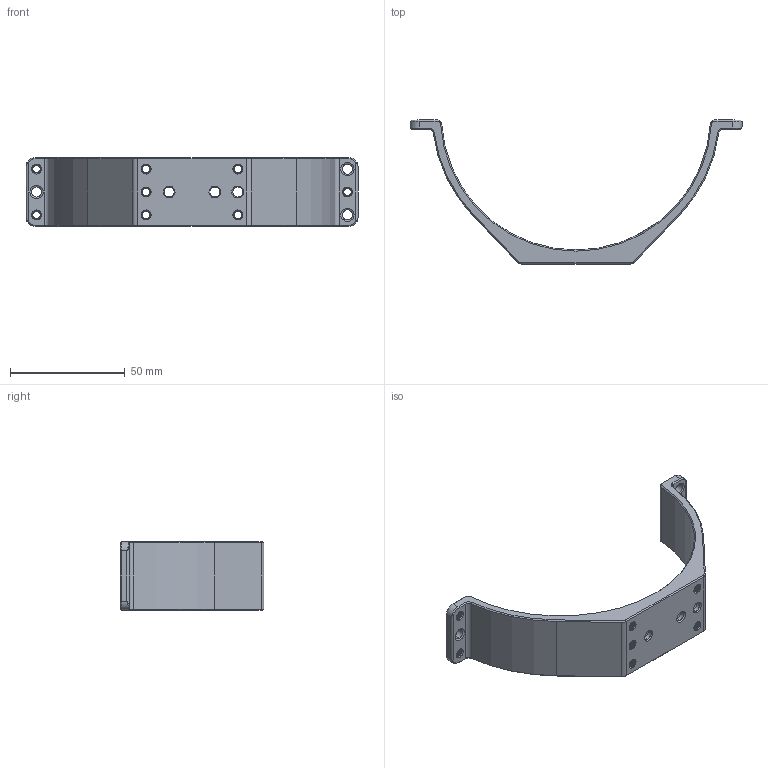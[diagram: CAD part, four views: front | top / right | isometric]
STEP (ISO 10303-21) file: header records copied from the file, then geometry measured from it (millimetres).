
FILE_DESCRIPTION (( 'STEP AP214' ), '1' );
FILE_NAME ('WTE4-M-CLAMP.STEP', '2024-03-15T21:25:49', ( '' ), ( '' ), 'SwSTEP 2.0', 'SolidWorks 2024', '' );
FILE_SCHEMA (( 'AUTOMOTIVE_DESIGN' ));
Length unit declared in the file: millimetre
Products named in the file (1): WTE4-M-CLAMP
Bounding box: 144.9 x 62.8 x 30 mm (x, y, z)
Volume: 30751.9 mm3; surface area: 16095.9 mm2
Topology: 1 solids, 1 shells, 289 faces, 767 edges, 483 vertices
Faces by surface type: cylinder 123, cone 82, bspline 50, plane 34
Entity records: 55883 total; most frequent: CARTESIAN_POINT 49512, ORIENTED_EDGE 1526, DIRECTION 1054, EDGE_CURVE 763, VERTEX_POINT 483, AXIS2_PLACEMENT_3D 401, EDGE_LOOP 324, ADVANCED_FACE 289
